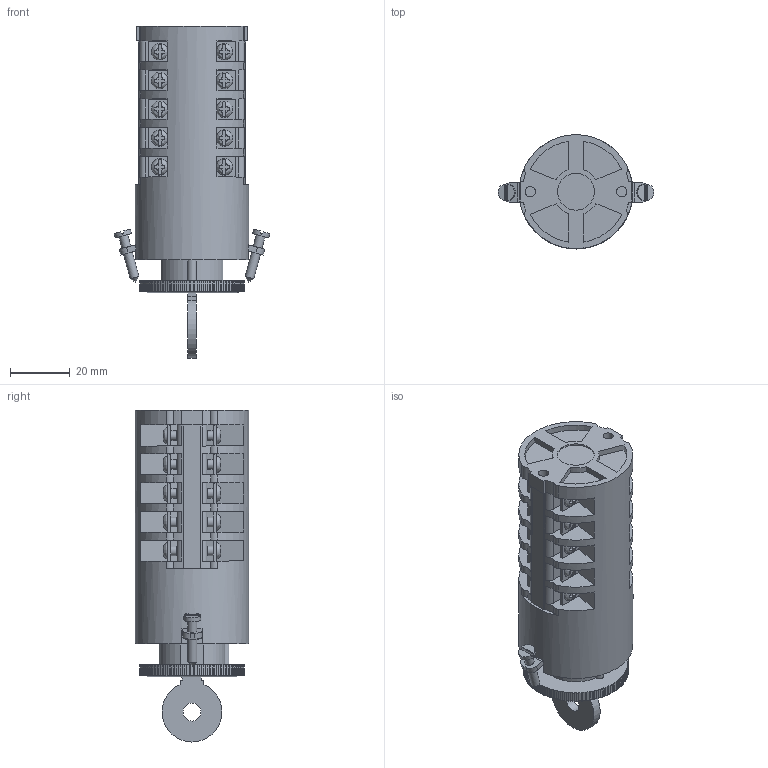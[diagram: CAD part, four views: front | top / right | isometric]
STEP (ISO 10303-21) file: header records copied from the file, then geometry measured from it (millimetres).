
FILE_DESCRIPTION(/* description */ (''),/* implementation_level */ '2;1');
FILE_NAME(/* name */ '4G10-U_wykonanie_S10_5_korpusow.stp',/* time_stamp */ '2021-07-21T08:21:43+02:00',/* author */ (''),/* organization */ (''),/* preprocessor_version */ 'ST-DEVELOPER v18.1',/* originating_system */ 'SIEMENS PLM Software NX 1965',/* authorisation */ '');
FILE_SCHEMA (('AUTOMOTIVE_DESIGN { 1 0 10303 214 3 1 1 1 }'));
Length unit declared in the file: millimetre
Products named in the file (1): 4G10-U_wykonanie_S10_5_korpusow_stp
Bounding box: 51.98 x 38 x 110.68 mm (x, y, z)
Volume: 82238.9 mm3; surface area: 24002.1 mm2
Topology: 1 solids, 3 shells, 1039 faces, 2945 edges, 1968 vertices
Faces by surface type: plane 821, cylinder 192, bspline 20, cone 4, torus 2
Full cylindrical faces by diameter (mm): 3 x4, 3.2 x20, 3.4 x4, 5.5 x2, 5.6 x2, 6 x1, 12.3 x1, 15.8 x1, 16.1 x1, 38 x1
Entity records: 33608 total; most frequent: CARTESIAN_POINT 7186, ORIENTED_EDGE 5654, DIRECTION 5218, EDGE_CURVE 2827, VERTEX_POINT 1915, LINE 1900, VECTOR 1900, AXIS2_PLACEMENT_3D 1659
